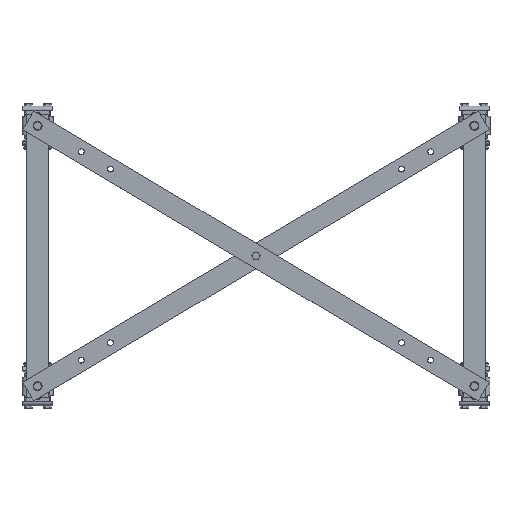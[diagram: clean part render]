
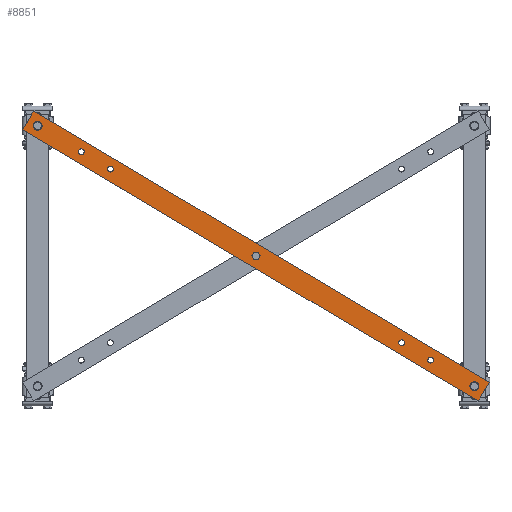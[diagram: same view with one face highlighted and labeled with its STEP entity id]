
A CAD part, top view. The second image highlights one B-rep face of the part: STEP entity #8851.
In plain terms, the highlighted planar face has unit normal (0, 0, 1).
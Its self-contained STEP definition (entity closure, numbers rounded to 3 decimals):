
#7310=FACE_BOUND('',#11018,.T.);
#7311=FACE_BOUND('',#11019,.T.);
#7312=FACE_BOUND('',#11020,.T.);
#7313=FACE_BOUND('',#11021,.T.);
#7314=FACE_BOUND('',#11022,.T.);
#7315=FACE_BOUND('',#11023,.T.);
#7316=FACE_BOUND('',#11024,.T.);
#7317=FACE_BOUND('',#11025,.T.);
#7989=CIRCLE('',#21177,6.747);
#7990=CIRCLE('',#21178,6.747);
#7991=CIRCLE('',#21179,6.747);
#7992=CIRCLE('',#21180,6.747);
#7993=CIRCLE('',#21181,6.747);
#7994=CIRCLE('',#21182,6.747);
#7995=CIRCLE('',#21183,6.747);
#8851=ADVANCED_FACE('',(#7310,#7311,#7312,#7313,#7314,#7315,#7316,#7317),
#9272,.T.);
#9272=PLANE('',#21184);
#11018=EDGE_LOOP('',(#16248));
#11019=EDGE_LOOP('',(#16249));
#11020=EDGE_LOOP('',(#16250));
#11021=EDGE_LOOP('',(#16251));
#11022=EDGE_LOOP('',(#16252));
#11023=EDGE_LOOP('',(#16253));
#11024=EDGE_LOOP('',(#16254));
#11025=EDGE_LOOP('',(#16255,#16256,#16257,#16258));
#11852=LINE('',#32114,#12662);
#11856=LINE('',#32122,#12666);
#11859=LINE('',#32128,#12669);
#11861=LINE('',#32131,#12671);
#12662=VECTOR('',#24782,1.);
#12666=VECTOR('',#24788,1.);
#12669=VECTOR('',#24793,1.);
#12671=VECTOR('',#24797,1.);
#16248=ORIENTED_EDGE('',*,*,#19312,.F.);
#16249=ORIENTED_EDGE('',*,*,#19313,.F.);
#16250=ORIENTED_EDGE('',*,*,#19314,.F.);
#16251=ORIENTED_EDGE('',*,*,#19315,.F.);
#16252=ORIENTED_EDGE('',*,*,#19316,.F.);
#16253=ORIENTED_EDGE('',*,*,#19317,.F.);
#16254=ORIENTED_EDGE('',*,*,#19318,.F.);
#16255=ORIENTED_EDGE('',*,*,#19302,.T.);
#16256=ORIENTED_EDGE('',*,*,#19306,.T.);
#16257=ORIENTED_EDGE('',*,*,#19309,.T.);
#16258=ORIENTED_EDGE('',*,*,#19311,.T.);
#17488=VERTEX_POINT('',#32113);
#17489=VERTEX_POINT('',#32115);
#17491=VERTEX_POINT('',#32121);
#17493=VERTEX_POINT('',#32127);
#17494=VERTEX_POINT('',#32134);
#17495=VERTEX_POINT('',#32136);
#17496=VERTEX_POINT('',#32138);
#17497=VERTEX_POINT('',#32140);
#17498=VERTEX_POINT('',#32142);
#17499=VERTEX_POINT('',#32144);
#17500=VERTEX_POINT('',#32146);
#19302=EDGE_CURVE('',#17489,#17488,#11852,.T.);
#19306=EDGE_CURVE('',#17488,#17491,#11856,.T.);
#19309=EDGE_CURVE('',#17491,#17493,#11859,.T.);
#19311=EDGE_CURVE('',#17493,#17489,#11861,.T.);
#19312=EDGE_CURVE('',#17494,#17494,#7989,.T.);
#19313=EDGE_CURVE('',#17495,#17495,#7990,.T.);
#19314=EDGE_CURVE('',#17496,#17496,#7991,.T.);
#19315=EDGE_CURVE('',#17497,#17497,#7992,.T.);
#19316=EDGE_CURVE('',#17498,#17498,#7993,.T.);
#19317=EDGE_CURVE('',#17499,#17499,#7994,.T.);
#19318=EDGE_CURVE('',#17500,#17500,#7995,.T.);
#21177=AXIS2_PLACEMENT_3D('',#32133,#24800,#24801);
#21178=AXIS2_PLACEMENT_3D('',#32135,#24802,#24803);
#21179=AXIS2_PLACEMENT_3D('',#32137,#24804,#24805);
#21180=AXIS2_PLACEMENT_3D('',#32139,#24806,#24807);
#21181=AXIS2_PLACEMENT_3D('',#32141,#24808,#24809);
#21182=AXIS2_PLACEMENT_3D('',#32143,#24810,#24811);
#21183=AXIS2_PLACEMENT_3D('',#32145,#24812,#24813);
#21184=AXIS2_PLACEMENT_3D('',#32147,#24814,#24815);
#24782=DIRECTION('',(0.859,-0.512,0.));
#24788=DIRECTION('',(0.512,0.859,0.));
#24793=DIRECTION('',(-0.859,0.512,0.));
#24797=DIRECTION('',(-0.512,-0.859,0.));
#24800=DIRECTION('',(0.,0.,1.));
#24801=DIRECTION('',(0.859,-0.512,0.));
#24802=DIRECTION('',(0.,0.,1.));
#24803=DIRECTION('',(0.859,-0.512,0.));
#24804=DIRECTION('',(0.,0.,1.));
#24805=DIRECTION('',(0.859,-0.512,0.));
#24806=DIRECTION('',(0.,0.,1.));
#24807=DIRECTION('',(0.859,-0.512,0.));
#24808=DIRECTION('',(0.,0.,1.));
#24809=DIRECTION('',(0.859,-0.512,0.));
#24810=DIRECTION('',(0.,0.,1.));
#24811=DIRECTION('',(0.859,-0.512,0.));
#24812=DIRECTION('',(0.,0.,1.));
#24813=DIRECTION('',(0.859,-0.512,0.));
#24814=DIRECTION('',(0.,0.,1.));
#24815=DIRECTION('',(0.859,-0.512,0.));
#32113=CARTESIAN_POINT('',(1031.138,-34.825,23.813));
#32114=CARTESIAN_POINT('',(-34.825,600.793,23.813));
#32115=CARTESIAN_POINT('',(-34.825,600.793,23.813));
#32121=CARTESIAN_POINT('',(1057.155,8.807,23.812));
#32122=CARTESIAN_POINT('',(1031.138,-34.825,23.813));
#32127=CARTESIAN_POINT('',(-8.807,644.425,23.812));
#32128=CARTESIAN_POINT('',(-8.807,644.425,23.812));
#32131=CARTESIAN_POINT('',(-34.825,600.793,23.813));
#32133=CARTESIAN_POINT('',(511.165,304.8,23.812));
#32134=CARTESIAN_POINT('',(516.96,301.345,23.812));
#32135=CARTESIAN_POINT('',(1022.33,0.,23.812));
#32136=CARTESIAN_POINT('',(1028.125,-3.455,23.812));
#32137=CARTESIAN_POINT('',(920.097,60.96,23.813));
#32138=CARTESIAN_POINT('',(925.892,57.505,23.813));
#32139=CARTESIAN_POINT('',(851.942,101.6,23.813));
#32140=CARTESIAN_POINT('',(857.737,98.145,23.813));
#32141=CARTESIAN_POINT('',(0.,609.6,23.813));
#32142=CARTESIAN_POINT('',(5.795,606.145,23.813));
#32143=CARTESIAN_POINT('',(102.233,548.64,23.812));
#32144=CARTESIAN_POINT('',(108.028,545.185,23.812));
#32145=CARTESIAN_POINT('',(170.388,508.,23.812));
#32146=CARTESIAN_POINT('',(176.183,504.545,23.812));
#32147=CARTESIAN_POINT('',(-34.825,600.793,23.813));
